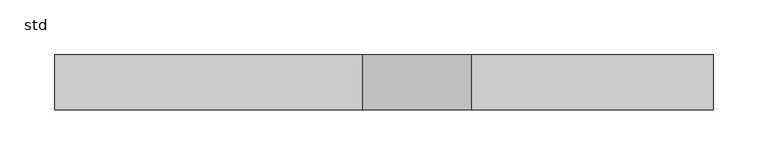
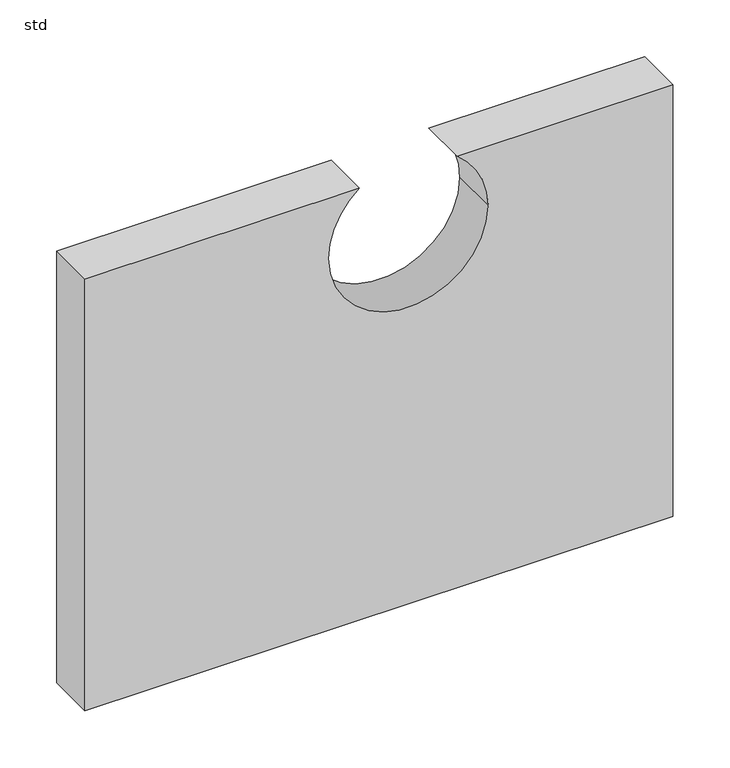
"""IFC4 building model written with IfcOpenShell, lengths in millimetres: unitary equipment geometry, Z_ME_UN_Q-Bic_Plus_Connection_Plate_Wavin_(nested) : std."""

import ifcopenshell
import ifcopenshell.guid

model = None  # the IFC model being written
_history = None  # IfcOwnerHistory: only IFC2X3 demands one
_inside = {}  # id of a spatial element -> (the spatial element, [elements in it])
_under = {}  # id of a project, library or spatial element -> (it, [spatial elements below it])
_declared = {}  # id of a project -> (the project, [libraries it declares])
_typed = {}  # id of a type object -> (the type object, [elements of that type])
_made_of = {}  # id of a material, layer set ... -> (it, [elements and type objects made of it])


def new_model(schema):
    """Start an empty IFC model of exactly this schema.

    Asked for "IFC4X3", IfcOpenShell would pick the latest addendum, in which some entities
    have other attributes; the version numbers below select the first issue.
    IFC2X3 requires an IfcOwnerHistory on every rooted entity: one is made here for all.
    """
    global model, _history
    if schema == "IFC4X3":
        model = ifcopenshell.file(schema_version=(4, 3, 0, 0))
    else:
        model = ifcopenshell.file(schema=schema)
    _inside.clear()
    _under.clear()
    _declared.clear()
    _typed.clear()
    _made_of.clear()
    _history = None
    if model.schema == "IFC2X3":
        org = make("IfcOrganization", Name="unknown")
        user = make(
            "IfcPersonAndOrganization",
            ThePerson=make("IfcPerson", FamilyName="unknown"),
            TheOrganization=org,
        )
        app = make(
            "IfcApplication",
            ApplicationDeveloper=org,
            Version="unknown",
            ApplicationFullName="unknown",
            ApplicationIdentifier="unknown",
        )
        _history = make(
            "IfcOwnerHistory",
            OwningUser=user,
            OwningApplication=app,
            ChangeAction="ADDED",
            CreationDate=0,
        )
    return model


def make(cls, **values):
    """One entity of the class cls with the attributes given. An attribute that is None is left unset."""
    return model.create_entity(
        cls, **{name: value for name, value in values.items() if value is not None}
    )


def rooted(cls, **values):
    """An entity with a GlobalId (a new one), such as an element, a storey or a relation."""
    return make(cls, GlobalId=ifcopenshell.guid.new(), OwnerHistory=_history, **values)


def si_unit(unit_type, name, prefix=None):
    """IfcSIUnit, for example si_unit("LENGTHUNIT", "METRE", prefix="MILLI")."""
    return make("IfcSIUnit", UnitType=unit_type, Prefix=prefix, Name=name)


def assignment(units):
    """IfcUnitAssignment: the units of a project."""
    return None if units is None else make("IfcUnitAssignment", Units=units)


def point(xyz):
    """IfcCartesianPoint."""
    return None if xyz is None else make("IfcCartesianPoint", Coordinates=xyz)


def direction(xyz):
    """IfcDirection."""
    return None if xyz is None else make("IfcDirection", DirectionRatios=xyz)


def frame(location, z_axis=None, x_axis=None):
    """IfcAxis2Placement3D, a coordinate frame: its origin and axes. An axis left out is left unset."""
    return make(
        "IfcAxis2Placement3D",
        Location=point(location),
        Axis=direction(z_axis),
        RefDirection=direction(x_axis),
    )


def frame_2d(location, x_axis=None):
    """IfcAxis2Placement2D, a coordinate frame in the plane: its origin and x axis."""
    return make(
        "IfcAxis2Placement2D", Location=point(location), RefDirection=direction(x_axis)
    )


def origin():
    """The frame at (0, 0, 0) with its axes left unset."""
    return frame((0.0, 0.0, 0.0))


def place(relative_to, where):
    """IfcLocalPlacement: puts the frame where relative to a parent placement (None: the world)."""
    return make(
        "IfcLocalPlacement", PlacementRelTo=relative_to, RelativePlacement=where
    )


def context(
    kind, dimensions, precision=None, world=None, true_north=None, identifier=None
):
    """IfcGeometricRepresentationContext, for example the 3D "Model" context."""
    return make(
        "IfcGeometricRepresentationContext",
        ContextIdentifier=identifier,
        ContextType=kind,
        CoordinateSpaceDimension=dimensions,
        Precision=precision,
        WorldCoordinateSystem=world,
        TrueNorth=true_north,
    )


def project(units=None, contexts=None):
    """IfcProject with its units and contexts."""
    return rooted(
        "IfcProject",
        Name="project",
        RepresentationContexts=contexts,
        UnitsInContext=assignment(units),
    )


def spatial(cls, under=None, at=None, **own):
    """A site, building, storey or space (cls), placed at a placement, below another one or the project."""
    s = rooted(cls, ObjectPlacement=at, **own)
    if under is not None:
        _under.setdefault(under.id(), (under, []))[1].append(s)
    return s


def polyline(points):
    """IfcPolyline through the points."""
    return make("IfcPolyline", Points=[point(p) for p in points])


def circle_curve(where, radius):
    """IfcCircle in the frame where."""
    return make("IfcCircle", Position=where, Radius=radius)


def trimmed(basis, trim1, trim2, sense, master):
    """IfcTrimmedCurve: the piece of a basis curve between two trims."""
    return make(
        "IfcTrimmedCurve",
        BasisCurve=basis,
        Trim1=trim1,
        Trim2=trim2,
        SenseAgreement=sense,
        MasterRepresentation=master,
    )


def segment(curve, same_sense, transition):
    """IfcCompositeCurveSegment."""
    return make(
        "IfcCompositeCurveSegment",
        Transition=transition,
        SameSense=same_sense,
        ParentCurve=curve,
    )


def composite_curve(segments, self_intersect=None):
    """IfcCompositeCurve: segments joined end to end."""
    return make("IfcCompositeCurve", Segments=segments, SelfIntersect=self_intersect)


def outline(outer, holes=None, kind="AREA"):
    """IfcArbitraryClosedProfileDef: a profile drawn as a closed curve; with holes, ...WithVoids."""
    if holes is None:
        return make("IfcArbitraryClosedProfileDef", ProfileType=kind, OuterCurve=outer)
    return make(
        "IfcArbitraryProfileDefWithVoids",
        ProfileType=kind,
        OuterCurve=outer,
        InnerCurves=holes,
    )


def extrude(swept, where, along, depth):
    """IfcExtrudedAreaSolid: the profile swept, set in the frame where, extruded along a direction by depth."""
    return make(
        "IfcExtrudedAreaSolid",
        SweptArea=swept,
        Position=where,
        ExtrudedDirection=direction(along),
        Depth=depth,
    )


def shape(context_of_items, identifier, shape_type, items):
    """IfcShapeRepresentation: the items that make up one representation, for example the "Body"."""
    return make(
        "IfcShapeRepresentation",
        ContextOfItems=context_of_items,
        RepresentationIdentifier=identifier,
        RepresentationType=shape_type,
        Items=items,
    )


def source(mapping_origin, context_of_items, identifier, shape_type, items):
    """IfcRepresentationMap: a shape defined once, which mapped items show again and again."""
    return make(
        "IfcRepresentationMap",
        MappingOrigin=mapping_origin,
        MappedRepresentation=shape(context_of_items, identifier, shape_type, items),
    )


def transform(
    local_origin,
    x_axis=None,
    y_axis=None,
    z_axis=None,
    scale=None,
    scale2=None,
    scale3=None,
    uniform=True,
):
    """IfcCartesianTransformationOperator3D, or its non-uniform kind. x_axis, y_axis, z_axis: its Axis1, 2, 3."""
    if uniform:
        return make(
            "IfcCartesianTransformationOperator3D",
            Axis1=direction(x_axis),
            Axis2=direction(y_axis),
            LocalOrigin=point(local_origin),
            Scale=scale,
            Axis3=direction(z_axis),
        )
    return make(
        "IfcCartesianTransformationOperator3DnonUniform",
        Axis1=direction(x_axis),
        Axis2=direction(y_axis),
        LocalOrigin=point(local_origin),
        Scale=scale,
        Axis3=direction(z_axis),
        Scale2=scale2,
        Scale3=scale3,
    )


def mapped(mapping_source, mapping_target):
    """IfcMappedItem: shows the shape of a source again, moved by a transform."""
    return make(
        "IfcMappedItem", MappingSource=mapping_source, MappingTarget=mapping_target
    )


def made_of(thing, what):
    """Note that an element or type object is made of a material, layer set ...; save() writes the relation."""
    if what is not None:
        _made_of.setdefault(what.id(), (what, []))[1].append(thing)
    return thing


def element(
    cls,
    number,
    at=None,
    inside=None,
    cuts=None,
    type_object=None,
    material=None,
    context=None,
    identifier="Body",
    shape_type=None,
    held_by="IfcProductDefinitionShape",
    body=None,
    shapes=None,
    **own,
):
    """One element of the class cls, such as IfcWall. Its Tag is "e" and its number.

    at: its placement. inside: the storey or other place that contains it. cuts: it is an
    opening in that element (IfcRelVoidsElement). A single representation is given by context,
    identifier, shape_type and body (its items); several are given by shapes. held_by: the class
    of the entity that holds the representations. save() writes the other relations.
    """
    e = rooted(cls, Tag="e%d" % number, ObjectPlacement=at, **own)
    if body is not None:
        shapes = [shape(context, identifier, shape_type, body)]
    if shapes is not None:
        e.Representation = make(held_by, Representations=shapes)
    if inside is not None:
        _inside.setdefault(inside.id(), (inside, []))[1].append(e)
    if cuts is not None:
        rooted(
            "IfcRelVoidsElement", RelatingBuildingElement=cuts, RelatedOpeningElement=e
        )
    if type_object is not None:
        _typed.setdefault(type_object.id(), (type_object, []))[1].append(e)
    return made_of(e, material)


def aggregate(whole, parts):
    """IfcRelAggregates: a whole, such as a stair, and the parts it consists of."""
    return rooted("IfcRelAggregates", RelatingObject=whole, RelatedObjects=parts)


def save(model, path):
    """Write the relations noted so far, then the file.

    IfcRelAggregates (storeys below a building ...), IfcRelContainedInSpatialStructure (elements
    in a storey), IfcRelDefinesByType, IfcRelAssociatesMaterial and IfcRelDeclares: one each for
    every whole, place, type object, material and project.
    """
    for whole, parts in _under.values():
        aggregate(whole, parts)
    for where, things in _inside.values():
        rooted(
            "IfcRelContainedInSpatialStructure",
            RelatedElements=things,
            RelatingStructure=where,
        )
    for kind, things in _typed.values():
        rooted("IfcRelDefinesByType", RelatedObjects=things, RelatingType=kind)
    for what, things in _made_of.values():
        rooted("IfcRelAssociatesMaterial", RelatedObjects=things, RelatingMaterial=what)
    for by, libraries in _declared.values():
        rooted("IfcRelDeclares", RelatingContext=by, RelatedDefinitions=libraries)
    model.write(path)


def std_2a40640f(model_context):
    return source(origin(), model_context, "Body", "SweptSolid", [
        extrude(outline(composite_curve([segment(polyline([(92.0, 0.0), (92.0, 600.0), (558.0, 600.0), (558.0, 379.8196748)]), True, "CONTINUOUS"), segment(trimmed(circle_curve(frame_2d((493.5, 330.0)), 81.5), [point((558.0, 379.8196748))], [point((493.5, 411.5))], True, "CARTESIAN"), True, "CONTINUOUS"), segment(trimmed(circle_curve(frame_2d((493.5, 330.0)), 81.5), [point((493.5, 411.5))], [point((493.5, 248.5))], True, "CARTESIAN"), True, "CONTINUOUS"), segment(trimmed(circle_curve(frame_2d((493.5, 330.0)), 81.5), [point((493.5, 248.5))], [point((558.0, 280.1803252))], True, "CARTESIAN"), True, "CONTINUOUS"), segment(polyline([(558.0, 280.1803252), (558.0, 0.0), (92.0, 0.0)]), True, "CONTINUOUS")], self_intersect=False)), frame((0.0, 0.0, 0.0), z_axis=(0.0, 1.0, 0.0), x_axis=(0.0, 0.0, 1.0)), (0.0, 0.0, 1.0), 50.0),
    ])


if __name__ == "__main__":
    model = new_model("IFC4")
    model_context = context("Model", 3, world=origin())
    ifc_project = project(units=[si_unit("LENGTHUNIT", "METRE", prefix="MILLI")], contexts=[model_context])
    site = spatial("IfcSite", under=ifc_project)
    building = spatial("IfcBuilding", under=site)
    placement = place(None, origin())
    std_shape = std_2a40640f(model_context)
    element("IfcUnitaryEquipment", 1, ObjectType="Z_ME_UN_Q-Bic_Plus_Connection_Plate_Wavin_(nested) : std", at=placement, inside=building, context=model_context, shape_type="MappedRepresentation", body=[
        mapped(std_shape, transform((0.0, 0.0, 0.0), x_axis=(1.0, 0.0, 0.0), y_axis=(0.0, 1.0, 0.0), z_axis=(0.0, 0.0, 1.0))),
    ])
    save(model, "model.ifc")
